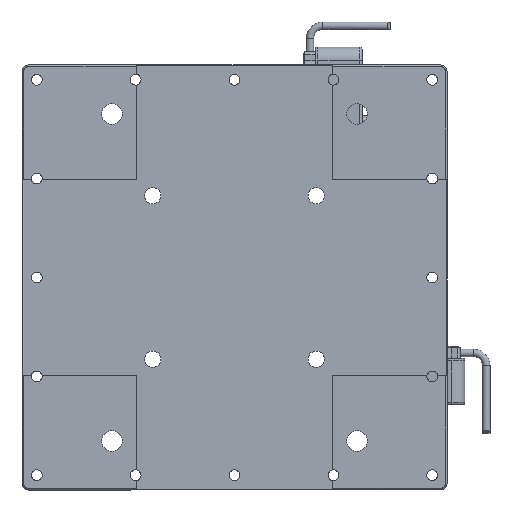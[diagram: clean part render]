
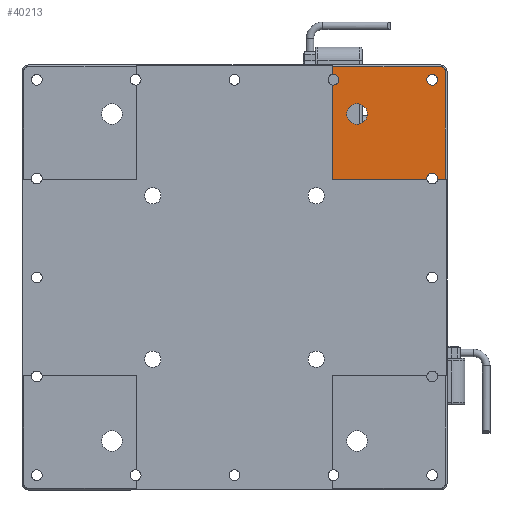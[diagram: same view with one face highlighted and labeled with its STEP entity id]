
A CAD part, front view. The second image highlights one B-rep face of the part: STEP entity #40213.
In plain terms, the highlighted planar face has unit normal (0, -1, 0).
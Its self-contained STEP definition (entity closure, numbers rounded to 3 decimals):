
#18 = ORIENTED_EDGE ( 'NONE', *, *, #5637, .T. ) ;
#283 = CIRCLE ( 'NONE', #4257, 1.65 ) ;
#898 = AXIS2_PLACEMENT_3D ( 'NONE', #44486, #24599, #20216 ) ;
#1789 = VERTEX_POINT ( 'NONE', #38409 ) ;
#1800 = CARTESIAN_POINT ( 'NONE',  ( -64.5, 0., 63. ) ) ;
#2123 = CARTESIAN_POINT ( 'NONE',  ( -30., 0., 30. ) ) ;
#2262 = EDGE_CURVE ( 'NONE', #6465, #17159, #26684, .T. ) ;
#2555 = CIRCLE ( 'NONE', #898, 1.65 ) ;
#2591 = VERTEX_POINT ( 'NONE', #11181 ) ;
#2671 = EDGE_LOOP ( 'NONE', ( #5957, #22148 ) ) ;
#2955 = VECTOR ( 'NONE', #30713, 1000. ) ;
#3169 = EDGE_CURVE ( 'NONE', #33632, #43553, #9027, .T. ) ;
#3670 = CARTESIAN_POINT ( 'NONE',  ( -30., 0., 58.869 ) ) ;
#4257 = AXIS2_PLACEMENT_3D ( 'NONE', #26109, #17727, #41991 ) ;
#4543 = VERTEX_POINT ( 'NONE', #3670 ) ;
#5161 = VERTEX_POINT ( 'NONE', #17218 ) ;
#5321 = FACE_OUTER_BOUND ( 'NONE', #30947, .T. ) ;
#5325 = VERTEX_POINT ( 'NONE', #2123 ) ;
#5637 = EDGE_CURVE ( 'NONE', #14499, #30821, #17183, .T. ) ;
#5901 = DIRECTION ( 'NONE',  ( 0., 0., 1. ) ) ;
#5957 = ORIENTED_EDGE ( 'NONE', *, *, #39453, .T. ) ;
#6066 = ORIENTED_EDGE ( 'NONE', *, *, #47845, .T. ) ;
#6465 = VERTEX_POINT ( 'NONE', #43123 ) ;
#7072 = VECTOR ( 'NONE', #48057, 1000. ) ;
#8136 = DIRECTION ( 'NONE',  ( 0., 0., 1. ) ) ;
#8202 = AXIS2_PLACEMENT_3D ( 'NONE', #40187, #20248, #24963 ) ;
#9027 = CIRCLE ( 'NONE', #14547, 1.65 ) ;
#9545 = ORIENTED_EDGE ( 'NONE', *, *, #24947, .F. ) ;
#11181 = CARTESIAN_POINT ( 'NONE',  ( -60.5, 0., 58.85 ) ) ;
#11905 = DIRECTION ( 'NONE',  ( 0., 0., 1. ) ) ;
#12952 = DIRECTION ( 'NONE',  ( 0., 1., 0. ) ) ;
#13649 = LINE ( 'NONE', #41289, #46790 ) ;
#14499 = VERTEX_POINT ( 'NONE', #16399 ) ;
#14547 = AXIS2_PLACEMENT_3D ( 'NONE', #35915, #36088, #11905 ) ;
#14699 = CARTESIAN_POINT ( 'NONE',  ( -50., 0., 40.65 ) ) ;
#14725 = FACE_BOUND ( 'NONE', #40180, .T. ) ;
#14971 = ORIENTED_EDGE ( 'NONE', *, *, #25386, .F. ) ;
#15118 = EDGE_CURVE ( 'NONE', #21594, #46365, #27290, .T. ) ;
#15278 = EDGE_CURVE ( 'NONE', #18970, #1789, #283, .T. ) ;
#15732 = EDGE_CURVE ( 'NONE', #4543, #33632, #24097, .T. ) ;
#15777 = CARTESIAN_POINT ( 'NONE',  ( -30.25, 0., 62.15 ) ) ;
#15889 = EDGE_CURVE ( 'NONE', #29504, #18970, #46515, .T. ) ;
#16399 = CARTESIAN_POINT ( 'NONE',  ( -30., 0., 64.5 ) ) ;
#16642 = VECTOR ( 'NONE', #16691, 1000. ) ;
#16691 = DIRECTION ( 'NONE',  ( 0., 0., -1. ) ) ;
#16820 = CARTESIAN_POINT ( 'NONE',  ( -50., 0., 37.5 ) ) ;
#16935 = VECTOR ( 'NONE', #44944, 1000. ) ;
#17159 = VERTEX_POINT ( 'NONE', #14699 ) ;
#17183 = LINE ( 'NONE', #40417, #7072 ) ;
#17218 = CARTESIAN_POINT ( 'NONE',  ( -30., 0., 62.131 ) ) ;
#17477 = DIRECTION ( 'NONE',  ( 0., 0., 1. ) ) ;
#17595 = VERTEX_POINT ( 'NONE', #25501 ) ;
#17727 = DIRECTION ( 'NONE',  ( 0., 1., 0. ) ) ;
#18151 = VECTOR ( 'NONE', #23912, 1000. ) ;
#18807 = DIRECTION ( 'NONE',  ( 0., 1., 0. ) ) ;
#18970 = VERTEX_POINT ( 'NONE', #24589 ) ;
#19533 = EDGE_CURVE ( 'NONE', #2591, #17595, #49850, .T. ) ;
#20216 = DIRECTION ( 'NONE',  ( 0., 0., 1. ) ) ;
#20248 = DIRECTION ( 'NONE',  ( 0., -1., 0. ) ) ;
#20436 = CARTESIAN_POINT ( 'NONE',  ( -60.5, 0., 60.5 ) ) ;
#20876 = DIRECTION ( 'NONE',  ( 0., 0., -1. ) ) ;
#20969 = AXIS2_PLACEMENT_3D ( 'NONE', #38221, #18807, #34368 ) ;
#21473 = CIRCLE ( 'NONE', #46344, 3.15 ) ;
#21540 = CARTESIAN_POINT ( 'NONE',  ( -30.25, 0., 60.5 ) ) ;
#21594 = VERTEX_POINT ( 'NONE', #1800 ) ;
#22020 = ORIENTED_EDGE ( 'NONE', *, *, #15118, .T. ) ;
#22148 = ORIENTED_EDGE ( 'NONE', *, *, #19533, .T. ) ;
#23022 = CARTESIAN_POINT ( 'NONE',  ( -63., 0., 64.5 ) ) ;
#23912 = DIRECTION ( 'NONE',  ( 0., 0., -1. ) ) ;
#24097 = CIRCLE ( 'NONE', #48111, 1.65 ) ;
#24152 = CARTESIAN_POINT ( 'NONE',  ( -62.131, 0., 30. ) ) ;
#24471 = DIRECTION ( 'NONE',  ( 0., 1., 0. ) ) ;
#24589 = CARTESIAN_POINT ( 'NONE',  ( -60.5, 0., 31.9 ) ) ;
#24598 = EDGE_CURVE ( 'NONE', #43553, #5161, #2555, .T. ) ;
#24599 = DIRECTION ( 'NONE',  ( 0., 1., 0. ) ) ;
#24947 = EDGE_CURVE ( 'NONE', #5325, #1789, #27601, .T. ) ;
#24963 = DIRECTION ( 'NONE',  ( 0., 0., 1. ) ) ;
#25229 = DIRECTION ( 'NONE',  ( 0., 0., 1. ) ) ;
#25386 = EDGE_CURVE ( 'NONE', #4543, #5325, #28803, .T. ) ;
#25457 = ORIENTED_EDGE ( 'NONE', *, *, #24598, .T. ) ;
#25501 = CARTESIAN_POINT ( 'NONE',  ( -60.5, 0., 62.15 ) ) ;
#25771 = ORIENTED_EDGE ( 'NONE', *, *, #15889, .T. ) ;
#26109 = CARTESIAN_POINT ( 'NONE',  ( -60.5, 0., 30.25 ) ) ;
#26684 = CIRCLE ( 'NONE', #48650, 3.15 ) ;
#26862 = CARTESIAN_POINT ( 'NONE',  ( -30.25, 0., 58.85 ) ) ;
#27044 = CARTESIAN_POINT ( 'NONE',  ( -30., 0., 30. ) ) ;
#27290 = LINE ( 'NONE', #40639, #16642 ) ;
#27404 = ORIENTED_EDGE ( 'NONE', *, *, #15732, .T. ) ;
#27601 = LINE ( 'NONE', #40597, #16935 ) ;
#27949 = ORIENTED_EDGE ( 'NONE', *, *, #42626, .F. ) ;
#28803 = LINE ( 'NONE', #35797, #18151 ) ;
#29212 = ORIENTED_EDGE ( 'NONE', *, *, #15278, .T. ) ;
#29504 = VERTEX_POINT ( 'NONE', #24152 ) ;
#29736 = CARTESIAN_POINT ( 'NONE',  ( -60.5, 0., 30.25 ) ) ;
#30411 = DIRECTION ( 'NONE',  ( 0., 1., 0. ) ) ;
#30424 = CARTESIAN_POINT ( 'NONE',  ( 0., 0., 0. ) ) ;
#30713 = DIRECTION ( 'NONE',  ( -1., 0., 0. ) ) ;
#30821 = VERTEX_POINT ( 'NONE', #23022 ) ;
#30947 = EDGE_LOOP ( 'NONE', ( #27404, #44546, #25457, #32707, #18, #6066, #22020, #27949, #25771, #29212, #9545, #14971 ) ) ;
#31626 = DIRECTION ( 'NONE',  ( 0., 1., 0. ) ) ;
#32707 = ORIENTED_EDGE ( 'NONE', *, *, #38362, .F. ) ;
#33632 = VERTEX_POINT ( 'NONE', #26862 ) ;
#34368 = DIRECTION ( 'NONE',  ( 0., 0., 1. ) ) ;
#34431 = DIRECTION ( 'NONE',  ( 0., 1., 0. ) ) ;
#34622 = PLANE ( 'NONE',  #35743 ) ;
#35697 = CIRCLE ( 'NONE', #8202, 1.5 ) ;
#35743 = AXIS2_PLACEMENT_3D ( 'NONE', #30424, #34431, #35832 ) ;
#35797 = CARTESIAN_POINT ( 'NONE',  ( -30., 0., 30. ) ) ;
#35832 = DIRECTION ( 'NONE',  ( 0., 0., 1. ) ) ;
#35915 = CARTESIAN_POINT ( 'NONE',  ( -30.25, 0., 60.5 ) ) ;
#36032 = FACE_BOUND ( 'NONE', #2671, .T. ) ;
#36088 = DIRECTION ( 'NONE',  ( 0., 1., 0. ) ) ;
#36185 = LINE ( 'NONE', #27044, #2955 ) ;
#38221 = CARTESIAN_POINT ( 'NONE',  ( -60.5, 0., 60.5 ) ) ;
#38362 = EDGE_CURVE ( 'NONE', #14499, #5161, #13649, .T. ) ;
#38409 = CARTESIAN_POINT ( 'NONE',  ( -58.869, 0., 30. ) ) ;
#39453 = EDGE_CURVE ( 'NONE', #17595, #2591, #41703, .T. ) ;
#39840 = CARTESIAN_POINT ( 'NONE',  ( -50., 0., 37.5 ) ) ;
#40180 = EDGE_LOOP ( 'NONE', ( #49946, #48693 ) ) ;
#40187 = CARTESIAN_POINT ( 'NONE',  ( -63., 0., 63. ) ) ;
#40213 = ADVANCED_FACE ( 'NONE', ( #36032, #14725, #5321 ), #34622, .F. ) ;
#40417 = CARTESIAN_POINT ( 'NONE',  ( 0., 0., 64.5 ) ) ;
#40597 = CARTESIAN_POINT ( 'NONE',  ( -30., 0., 30. ) ) ;
#40639 = CARTESIAN_POINT ( 'NONE',  ( -64.5, 0., 0. ) ) ;
#40974 = AXIS2_PLACEMENT_3D ( 'NONE', #20436, #24471, #44364 ) ;
#41077 = DIRECTION ( 'NONE',  ( 0., 1., 0. ) ) ;
#41289 = CARTESIAN_POINT ( 'NONE',  ( -30., 0., 30. ) ) ;
#41703 = CIRCLE ( 'NONE', #20969, 1.65 ) ;
#41991 = DIRECTION ( 'NONE',  ( 0., 0., 1. ) ) ;
#42626 = EDGE_CURVE ( 'NONE', #29504, #46365, #36185, .T. ) ;
#42819 = AXIS2_PLACEMENT_3D ( 'NONE', #29736, #30411, #5901 ) ;
#43123 = CARTESIAN_POINT ( 'NONE',  ( -50., 0., 34.35 ) ) ;
#43553 = VERTEX_POINT ( 'NONE', #15777 ) ;
#44364 = DIRECTION ( 'NONE',  ( 0., 0., 1. ) ) ;
#44486 = CARTESIAN_POINT ( 'NONE',  ( -30.25, 0., 60.5 ) ) ;
#44546 = ORIENTED_EDGE ( 'NONE', *, *, #3169, .T. ) ;
#44944 = DIRECTION ( 'NONE',  ( -1., 0., 0. ) ) ;
#46344 = AXIS2_PLACEMENT_3D ( 'NONE', #39840, #31626, #8136 ) ;
#46365 = VERTEX_POINT ( 'NONE', #48050 ) ;
#46515 = CIRCLE ( 'NONE', #42819, 1.65 ) ;
#46790 = VECTOR ( 'NONE', #20876, 1000. ) ;
#46825 = EDGE_CURVE ( 'NONE', #17159, #6465, #21473, .T. ) ;
#47845 = EDGE_CURVE ( 'NONE', #30821, #21594, #35697, .T. ) ;
#48050 = CARTESIAN_POINT ( 'NONE',  ( -64.5, 0., 30. ) ) ;
#48057 = DIRECTION ( 'NONE',  ( -1., 0., 0. ) ) ;
#48111 = AXIS2_PLACEMENT_3D ( 'NONE', #21540, #41077, #17477 ) ;
#48650 = AXIS2_PLACEMENT_3D ( 'NONE', #16820, #12952, #25229 ) ;
#48693 = ORIENTED_EDGE ( 'NONE', *, *, #2262, .T. ) ;
#49850 = CIRCLE ( 'NONE', #40974, 1.65 ) ;
#49946 = ORIENTED_EDGE ( 'NONE', *, *, #46825, .T. ) ;
